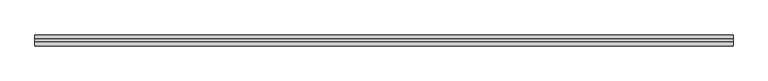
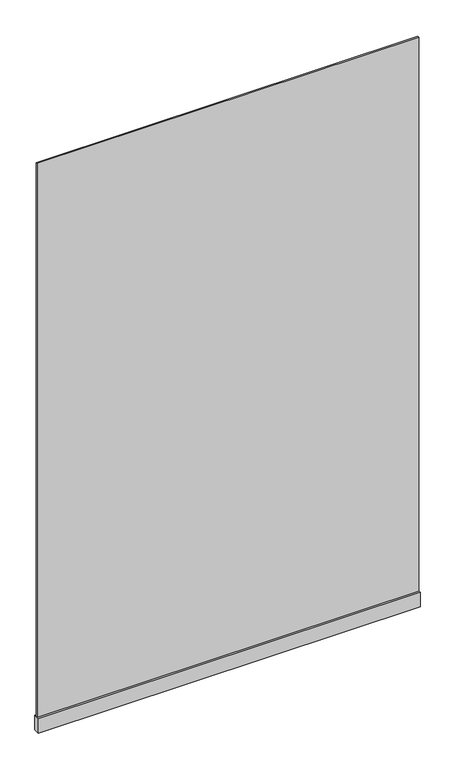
"""IFC4 building model written with IfcOpenShell, lengths in millimetres: plate geometry, r パネル FIX 下框付 : 框 H100."""

from ifc_helpers import new_model, si_unit, frame, origin, origin_with_axes, place, context, project, spatial, polyline, outline, extrude, source, transform, mapped, element, save


def plate_db6f16bc(model_context):
    return source(origin(), model_context, "Body", "SweptSolid", [
        extrude(outline(polyline([(-1262.5, 5.0), (1262.5, 5.0), (1262.5, -5.0), (-1262.5, -5.0), (-1262.5, 5.0)])), frame((0.0, 0.0, 100.0), z_axis=(0.0, 0.0, 1.0), x_axis=(1.0, 0.0, 0.0)), (0.0, 0.0, 1.0), 3875.0),
        extrude(outline(polyline([(-1262.5, 20.0), (1262.5, 20.0), (1262.5, -20.0), (-1262.5, -20.0), (-1262.5, 20.0)])), origin_with_axes(), (0.0, 0.0, 1.0), 100.0),
    ])


if __name__ == "__main__":
    model = new_model("IFC4")
    model_context = context("Model", 3, world=origin())
    ifc_project = project(units=[si_unit("LENGTHUNIT", "METRE", prefix="MILLI")], contexts=[model_context])
    site = spatial("IfcSite", under=ifc_project)
    building = spatial("IfcBuilding", under=site)
    placement = place(None, origin())
    plate_shape = plate_db6f16bc(model_context)
    element("IfcPlate", 1, ObjectType="r パネル FIX 下框付 : 框 H100", at=placement, inside=building, context=model_context, shape_type="MappedRepresentation", body=[
        mapped(plate_shape, transform((0.0, 0.0, 0.0), x_axis=(1.0, 0.0, 0.0), y_axis=(0.0, 1.0, 0.0), z_axis=(0.0, 0.0, 1.0))),
    ])
    save(model, "model.ifc")
